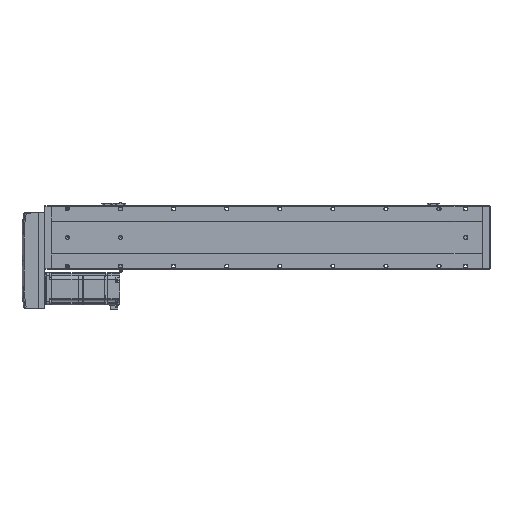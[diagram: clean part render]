
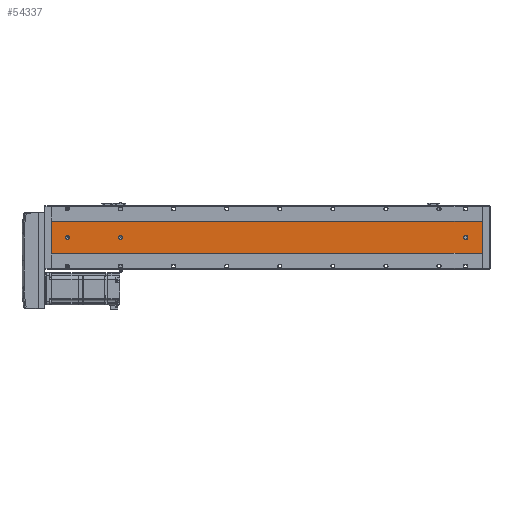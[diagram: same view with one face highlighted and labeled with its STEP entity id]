
A CAD part, front view. The second image highlights one B-rep face of the part: STEP entity #54337.
In plain terms, the highlighted planar face has unit normal (0, -1, 0).
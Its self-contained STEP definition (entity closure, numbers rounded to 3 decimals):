
#181 = CARTESIAN_POINT ( 'NONE',  ( -43.392, -52.848, 30. ) ) ;
#1481 = AXIS2_PLACEMENT_3D ( 'NONE', #18718, #4703, #11701 ) ;
#1508 = CARTESIAN_POINT ( 'NONE',  ( -39.892, -52.848, 30. ) ) ;
#2948 = CIRCLE ( 'NONE', #37106, 3.5 ) ;
#4085 = DIRECTION ( 'NONE',  ( 0., 0., -1. ) ) ;
#4258 = FACE_BOUND ( 'NONE', #9474, .T. ) ;
#4703 = DIRECTION ( 'NONE',  ( 0., 1., 0. ) ) ;
#4723 = VERTEX_POINT ( 'NONE', #38299 ) ;
#5351 = VERTEX_POINT ( 'NONE', #83288 ) ;
#5368 = VERTEX_POINT ( 'NONE', #83006 ) ;
#6812 = DIRECTION ( 'NONE',  ( 0., 0., 1. ) ) ;
#9474 = EDGE_LOOP ( 'NONE', ( #54971, #21016 ) ) ;
#9617 = LINE ( 'NONE', #77788, #24741 ) ;
#10256 = CARTESIAN_POINT ( 'NONE',  ( -69.892, -52.848, 811. ) ) ;
#10280 = FACE_BOUND ( 'NONE', #38255, .T. ) ;
#11458 = VERTEX_POINT ( 'NONE', #15410 ) ;
#11701 = DIRECTION ( 'NONE',  ( 0., 0., 1. ) ) ;
#12526 = EDGE_CURVE ( 'NONE', #32378, #33416, #53546, .T. ) ;
#13359 = DIRECTION ( 'NONE',  ( 0., 0., 1. ) ) ;
#13762 = EDGE_LOOP ( 'NONE', ( #69731, #75990 ) ) ;
#14334 = FACE_OUTER_BOUND ( 'NONE', #48742, .T. ) ;
#14419 = CARTESIAN_POINT ( 'NONE',  ( -39.892, -52.848, 681. ) ) ;
#15410 = CARTESIAN_POINT ( 'NONE',  ( -69.892, -52.848, 811. ) ) ;
#15575 = CIRCLE ( 'NONE', #60095, 3.5 ) ;
#15756 = ORIENTED_EDGE ( 'NONE', *, *, #70949, .T. ) ;
#16117 = VERTEX_POINT ( 'NONE', #81768 ) ;
#17737 = DIRECTION ( 'NONE',  ( 0., 0., 1. ) ) ;
#18718 = CARTESIAN_POINT ( 'NONE',  ( -69.892, -52.848, 811. ) ) ;
#20028 = CARTESIAN_POINT ( 'NONE',  ( -39.892, -52.848, 781. ) ) ;
#21016 = ORIENTED_EDGE ( 'NONE', *, *, #74429, .T. ) ;
#22388 = EDGE_CURVE ( 'NONE', #58359, #5368, #29813, .T. ) ;
#22746 = EDGE_CURVE ( 'NONE', #33416, #32378, #15575, .T. ) ;
#22888 = DIRECTION ( 'NONE',  ( 0., 0., 1. ) ) ;
#23485 = CARTESIAN_POINT ( 'NONE',  ( -36.392, -52.848, 811. ) ) ;
#24164 = EDGE_CURVE ( 'NONE', #5351, #16117, #28533, .T. ) ;
#24508 = DIRECTION ( 'NONE',  ( 0., 1., 0. ) ) ;
#24741 = VECTOR ( 'NONE', #78883, 1000. ) ;
#25481 = VECTOR ( 'NONE', #73790, 1000. ) ;
#26339 = EDGE_CURVE ( 'NONE', #4723, #40032, #2948, .T. ) ;
#26665 = VECTOR ( 'NONE', #4085, 1000. ) ;
#28179 = VECTOR ( 'NONE', #46239, 1000. ) ;
#28533 = CIRCLE ( 'NONE', #71841, 3.5 ) ;
#28641 = ORIENTED_EDGE ( 'NONE', *, *, #69526, .T. ) ;
#28799 = DIRECTION ( 'NONE',  ( 0., 1., 0. ) ) ;
#29081 = CARTESIAN_POINT ( 'NONE',  ( -39.892, -52.848, 32. ) ) ;
#29813 = CIRCLE ( 'NONE', #35940, 3.5 ) ;
#29886 = AXIS2_PLACEMENT_3D ( 'NONE', #20028, #45649, #6812 ) ;
#30123 = VERTEX_POINT ( 'NONE', #181 ) ;
#30792 = CARTESIAN_POINT ( 'NONE',  ( -69.892, -52.848, 0. ) ) ;
#31211 = CIRCLE ( 'NONE', #69421, 3.5 ) ;
#31266 = CARTESIAN_POINT ( 'NONE',  ( -69.892, -52.848, 811. ) ) ;
#32097 = CARTESIAN_POINT ( 'NONE',  ( -9.892, -52.848, 0. ) ) ;
#32378 = VERTEX_POINT ( 'NONE', #59376 ) ;
#33416 = VERTEX_POINT ( 'NONE', #57401 ) ;
#35918 = ORIENTED_EDGE ( 'NONE', *, *, #56237, .T. ) ;
#35940 = AXIS2_PLACEMENT_3D ( 'NONE', #14419, #59347, #52640 ) ;
#37106 = AXIS2_PLACEMENT_3D ( 'NONE', #68215, #74962, #42726 ) ;
#37498 = ORIENTED_EDGE ( 'NONE', *, *, #26339, .T. ) ;
#37515 = CARTESIAN_POINT ( 'NONE',  ( -39.892, -52.848, 677.5 ) ) ;
#38255 = EDGE_LOOP ( 'NONE', ( #72192, #37498, #35918, #15756, #53676 ) ) ;
#38299 = CARTESIAN_POINT ( 'NONE',  ( -36.392, -52.848, 30. ) ) ;
#38952 = EDGE_CURVE ( 'NONE', #82352, #53908, #65392, .T. ) ;
#40032 = VERTEX_POINT ( 'NONE', #71525 ) ;
#41812 = LINE ( 'NONE', #10256, #26665 ) ;
#42043 = EDGE_CURVE ( 'NONE', #16117, #4723, #65754, .T. ) ;
#42726 = DIRECTION ( 'NONE',  ( 0., 0., 1. ) ) ;
#45419 = DIRECTION ( 'NONE',  ( 0., 1., 0. ) ) ;
#45649 = DIRECTION ( 'NONE',  ( 0., 1., 0. ) ) ;
#46239 = DIRECTION ( 'NONE',  ( 1., 0., 0. ) ) ;
#48723 = DIRECTION ( 'NONE',  ( 0., 0., -1. ) ) ;
#48742 = EDGE_LOOP ( 'NONE', ( #63168, #55992, #82271, #28641 ) ) ;
#50577 = FACE_BOUND ( 'NONE', #13762, .T. ) ;
#52640 = DIRECTION ( 'NONE',  ( 0., 0., 1. ) ) ;
#53546 = CIRCLE ( 'NONE', #29886, 3.5 ) ;
#53676 = ORIENTED_EDGE ( 'NONE', *, *, #24164, .T. ) ;
#53908 = VERTEX_POINT ( 'NONE', #32097 ) ;
#54337 = ADVANCED_FACE ( 'NONE', ( #10280, #4258, #50577, #14334 ), #57207, .F. ) ;
#54971 = ORIENTED_EDGE ( 'NONE', *, *, #22388, .T. ) ;
#55992 = ORIENTED_EDGE ( 'NONE', *, *, #62946, .F. ) ;
#56229 = CARTESIAN_POINT ( 'NONE',  ( -39.892, -52.848, 781. ) ) ;
#56237 = EDGE_CURVE ( 'NONE', #40032, #30123, #31211, .T. ) ;
#57074 = VECTOR ( 'NONE', #63478, 1000. ) ;
#57207 = PLANE ( 'NONE',  #1481 ) ;
#57401 = CARTESIAN_POINT ( 'NONE',  ( -39.892, -52.848, 784.5 ) ) ;
#58359 = VERTEX_POINT ( 'NONE', #37515 ) ;
#59347 = DIRECTION ( 'NONE',  ( 0., 1., 0. ) ) ;
#59376 = CARTESIAN_POINT ( 'NONE',  ( -39.892, -52.848, 777.5 ) ) ;
#59739 = CARTESIAN_POINT ( 'NONE',  ( -9.892, -52.848, 811. ) ) ;
#59787 = AXIS2_PLACEMENT_3D ( 'NONE', #80801, #80522, #68730 ) ;
#60095 = AXIS2_PLACEMENT_3D ( 'NONE', #56229, #24508, #17737 ) ;
#60306 = CARTESIAN_POINT ( 'NONE',  ( -43.392, -52.848, 811. ) ) ;
#60749 = VECTOR ( 'NONE', #48723, 1000. ) ;
#62946 = EDGE_CURVE ( 'NONE', #70792, #53908, #9617, .T. ) ;
#63168 = ORIENTED_EDGE ( 'NONE', *, *, #38952, .T. ) ;
#63478 = DIRECTION ( 'NONE',  ( 1., 0., 0. ) ) ;
#65392 = LINE ( 'NONE', #65842, #28179 ) ;
#65754 = LINE ( 'NONE', #23485, #60749 ) ;
#65842 = CARTESIAN_POINT ( 'NONE',  ( -69.892, -52.848, 0. ) ) ;
#67712 = EDGE_CURVE ( 'NONE', #11458, #70792, #68101, .T. ) ;
#68101 = LINE ( 'NONE', #31266, #57074 ) ;
#68215 = CARTESIAN_POINT ( 'NONE',  ( -39.892, -52.848, 30. ) ) ;
#68730 = DIRECTION ( 'NONE',  ( 0., 0., 1. ) ) ;
#69421 = AXIS2_PLACEMENT_3D ( 'NONE', #1508, #45419, #13359 ) ;
#69526 = EDGE_CURVE ( 'NONE', #11458, #82352, #41812, .T. ) ;
#69731 = ORIENTED_EDGE ( 'NONE', *, *, #12526, .T. ) ;
#70792 = VERTEX_POINT ( 'NONE', #59739 ) ;
#70949 = EDGE_CURVE ( 'NONE', #30123, #5351, #76726, .T. ) ;
#71525 = CARTESIAN_POINT ( 'NONE',  ( -39.892, -52.848, 26.5 ) ) ;
#71841 = AXIS2_PLACEMENT_3D ( 'NONE', #29081, #28799, #22888 ) ;
#72192 = ORIENTED_EDGE ( 'NONE', *, *, #42043, .T. ) ;
#73790 = DIRECTION ( 'NONE',  ( 0., 0., 1. ) ) ;
#74429 = EDGE_CURVE ( 'NONE', #5368, #58359, #77076, .T. ) ;
#74962 = DIRECTION ( 'NONE',  ( 0., 1., 0. ) ) ;
#75990 = ORIENTED_EDGE ( 'NONE', *, *, #22746, .T. ) ;
#76726 = LINE ( 'NONE', #60306, #25481 ) ;
#77076 = CIRCLE ( 'NONE', #59787, 3.5 ) ;
#77788 = CARTESIAN_POINT ( 'NONE',  ( -9.892, -52.848, 811. ) ) ;
#78883 = DIRECTION ( 'NONE',  ( 0., 0., -1. ) ) ;
#80522 = DIRECTION ( 'NONE',  ( 0., 1., 0. ) ) ;
#80801 = CARTESIAN_POINT ( 'NONE',  ( -39.892, -52.848, 681. ) ) ;
#81768 = CARTESIAN_POINT ( 'NONE',  ( -36.392, -52.848, 32. ) ) ;
#82271 = ORIENTED_EDGE ( 'NONE', *, *, #67712, .F. ) ;
#82352 = VERTEX_POINT ( 'NONE', #30792 ) ;
#83006 = CARTESIAN_POINT ( 'NONE',  ( -39.892, -52.848, 684.5 ) ) ;
#83288 = CARTESIAN_POINT ( 'NONE',  ( -43.392, -52.848, 32. ) ) ;
